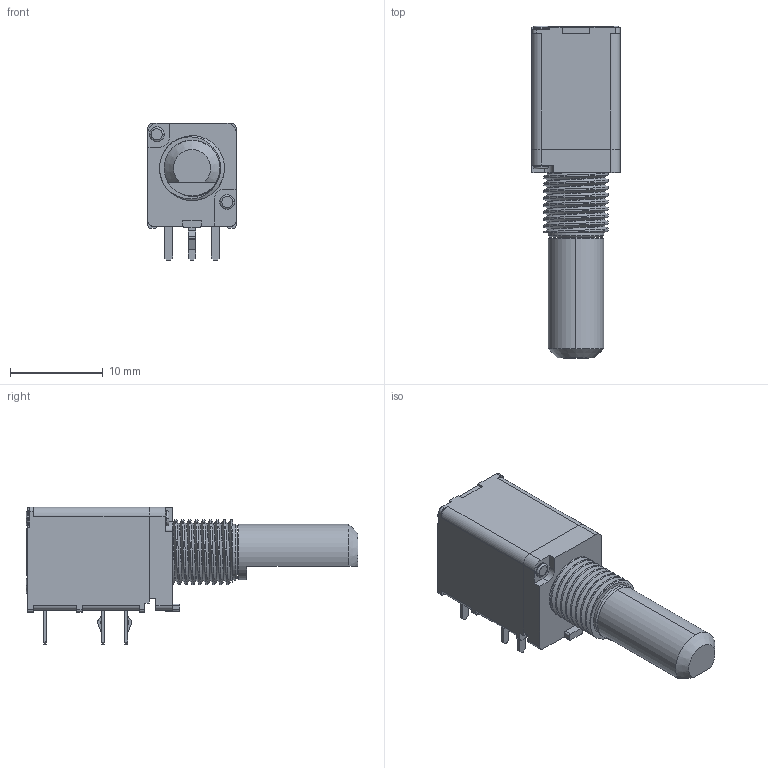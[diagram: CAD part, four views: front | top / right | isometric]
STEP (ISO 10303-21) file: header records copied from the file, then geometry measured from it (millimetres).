
FILE_DESCRIPTION (( 'STEP AP214' ), '1' );
FILE_NAME ('RK09712_1-F20.STEP', '2012-02-25T03:22:59', ( '' ), ( '' ), 'SwSTEP 2.0', 'SolidWorks 2010', '' );
FILE_SCHEMA (( 'AUTOMOTIVE_DESIGN' ));
Length unit declared in the file: millimetre
Products named in the file (1): RK09712_1-F20
Bounding box: 9.5 x 35.8 x 14.85 mm (x, y, z)
Volume: 2167.6 mm3; surface area: 1442.4 mm2
Topology: 1 solids, 1 shells, 248 faces, 659 edges, 431 vertices
Faces by surface type: plane 135, cylinder 90, torus 16, bspline 4, cone 3
Entity records: 12608 total; most frequent: CARTESIAN_POINT 3655, ORIENTED_EDGE 1318, DIRECTION 1282, EDGE_CURVE 659, VERTEX_POINT 431, LINE 428, VECTOR 428, AXIS2_PLACEMENT_3D 427
